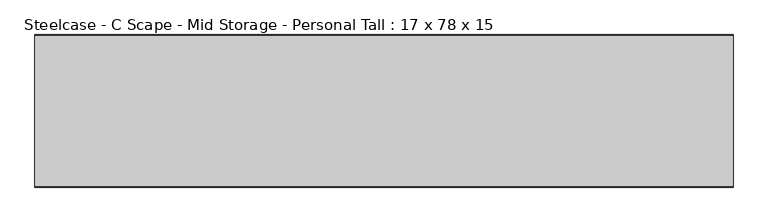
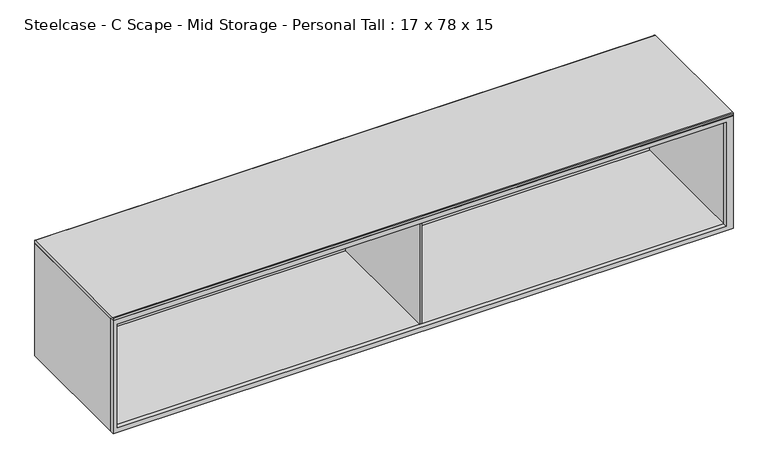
"""IFC4 building model written with IfcOpenShell, lengths in millimetres: furniture geometry, Steelcase - C Scape - Mid Storage - Personal Tall : 17 x 78 x 15."""

from ifc_helpers import new_model, si_unit, point, frame, frame_2d, origin, place, context, project, spatial, polyline, circle_curve, trimmed, segment, composite_curve, outline, extrude, source, transform, mapped, element, save


def steelcase_c_scape_mid_storage_personal_tall_17_x_78_x_15_b145af06(model_context):
    return source(origin(), model_context, "Body", "SweptSolid", [
        extrude(outline(polyline([(1219.2, 1981.2), (1219.2, 0.0), (838.2, 0.0), (838.2, 1981.2), (1219.2, 1981.2)]), holes=[polyline([(1203.9092, 1959.102), (853.4399855, 1959.102), (853.4399855, 13.437709), (1203.9092, 13.437709), (1203.9092, 1959.102)])]), frame((0.0, -216.535, 0.0), z_axis=(0.0, 1.0, 0.0), x_axis=(0.0, 0.0, 1.0)), (0.0, 0.0, 1.0), 14.3764481),
        extrude(outline(polyline([(1959.102, 207.0105809), (1959.102, -187.7821039), (13.437709, -187.7821039), (13.437709, 207.0105809), (1959.102, 207.0105809)])), frame((0.0, 0.0, 1203.9600145), z_axis=(0.0, 0.0, 1.0), x_axis=(1.0, 0.0, 0.0)), (0.0, 0.0, 1.0), 15.2399855),
        extrude(outline(polyline([(1959.102, 207.0105809), (1959.102, -202.1585519), (13.437709, -202.1585519), (13.437709, 207.0105809), (1959.102, 207.0105809)])), frame((0.0, 0.0, 838.2), z_axis=(0.0, 0.0, 1.0), x_axis=(1.0, 0.0, 0.0)), (0.0, 0.0, 1.0), 15.2399855),
        extrude(outline(composite_curve([segment(polyline([(-215.265, 1229.36), (215.265, 1229.36)]), True, "CONTINUOUS"), segment(trimmed(circle_curve(frame_2d((215.265, 1228.09)), 1.27), [point((215.265, 1229.36))], [point((216.535, 1228.09))], False, "CARTESIAN"), True, "CONTINUOUS"), segment(polyline([(216.535, 1228.09), (216.535, 1220.47)]), True, "CONTINUOUS"), segment(trimmed(circle_curve(frame_2d((215.265, 1220.47)), 1.27), [point((216.535, 1220.47))], [point((215.265, 1219.2))], False, "CARTESIAN"), True, "CONTINUOUS"), segment(polyline([(215.265, 1219.2), (-215.265, 1219.2)]), True, "CONTINUOUS"), segment(trimmed(circle_curve(frame_2d((-215.265, 1220.47)), 1.27), [point((-215.265, 1219.2))], [point((-216.535, 1220.47))], False, "CARTESIAN"), True, "CONTINUOUS"), segment(polyline([(-216.535, 1220.47), (-216.535, 1228.09)]), True, "CONTINUOUS"), segment(trimmed(circle_curve(frame_2d((-215.265, 1228.09)), 1.27), [point((-216.535, 1228.09))], [point((-215.265, 1229.36))], False, "CARTESIAN"), True, "CONTINUOUS")], self_intersect=False)), frame((0.0, 0.0, 0.0), z_axis=(1.0, 0.0, 0.0), x_axis=(0.0, 1.0, 0.0)), (0.0, 0.0, 1.0), 1981.2),
        extrude(outline(polyline([(987.425, -202.1585519), (987.425, 207.0105809), (993.775, 207.0105809), (993.775, -202.1585519), (987.425, -202.1585519)])), frame((0.0, 0.0, 853.4399855), z_axis=(0.0, 0.0, 1.0), x_axis=(1.0, 0.0, 0.0)), (0.0, 0.0, 1.0), 365.7600145),
        extrude(outline(polyline([(13.437709, -202.1585519), (0.0, -202.1585519), (0.0, 216.535), (1981.2, 216.535), (1981.2, -202.1585519), (1959.102, -202.1585519), (1959.102, 207.0105809), (1021.8892922, 207.0105809), (13.437709, 207.0105809), (13.437709, -202.1585519)])), frame((0.0, 0.0, 838.2), z_axis=(0.0, 0.0, 1.0), x_axis=(1.0, 0.0, 0.0)), (0.0, 0.0, 1.0), 381.0),
    ])


if __name__ == "__main__":
    model = new_model("IFC4")
    model_context = context("Model", 3, world=origin())
    ifc_project = project(units=[si_unit("LENGTHUNIT", "METRE", prefix="MILLI")], contexts=[model_context])
    site = spatial("IfcSite", under=ifc_project)
    building = spatial("IfcBuilding", under=site)
    placement = place(None, origin())
    steelcase_c_scape_mid_storage_personal_tall_17_x_78_x_15_shape = steelcase_c_scape_mid_storage_personal_tall_17_x_78_x_15_b145af06(model_context)
    element("IfcFurniture", 1, ObjectType="Steelcase - C Scape - Mid Storage - Personal Tall : 17 x 78 x 15", at=placement, inside=building, context=model_context, shape_type="MappedRepresentation", body=[
        mapped(steelcase_c_scape_mid_storage_personal_tall_17_x_78_x_15_shape, transform((0.0, 0.0, 0.0), x_axis=(1.0, 0.0, 0.0), y_axis=(0.0, 1.0, 0.0), z_axis=(0.0, 0.0, 1.0))),
    ])
    save(model, "model.ifc")
